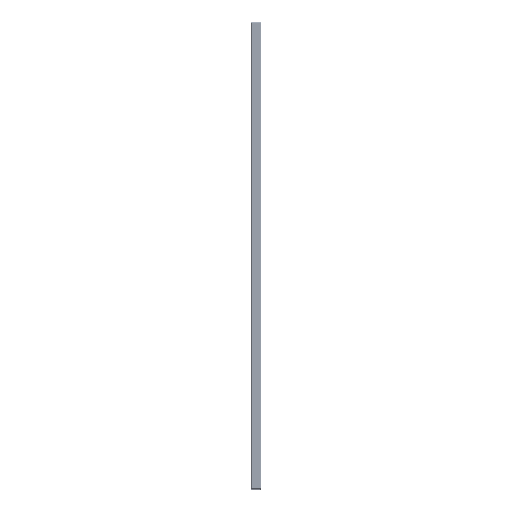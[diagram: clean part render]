
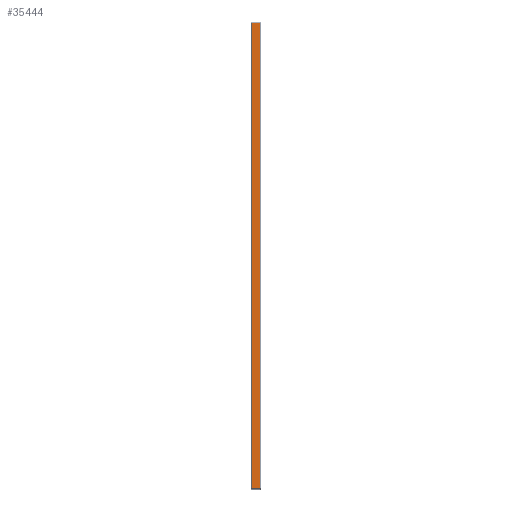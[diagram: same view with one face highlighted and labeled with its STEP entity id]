
A CAD part, top view. The second image highlights one B-rep face of the part: STEP entity #35444.
In plain terms, the highlighted planar face has unit normal (0, 0, 1).
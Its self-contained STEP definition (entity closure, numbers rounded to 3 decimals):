
#10834=FACE_OUTER_BOUND($,#15357,.T.);
#15357=EDGE_LOOP($,(#29983,#29984,#29985,#29986));
#20772=LINE($,#57185,#20812);
#20780=LINE($,#59002,#20820);
#20785=LINE($,#59012,#20825);
#20803=LINE($,#60848,#20843);
#20812=VECTOR($,#44490,13.);
#20820=VECTOR($,#46304,746.);
#20825=VECTOR($,#46311,13.);
#20843=VECTOR($,#48147,746.);
#20851=VERTEX_POINT($,#57182);
#20852=VERTEX_POINT($,#57184);
#21758=VERTEX_POINT($,#59000);
#21762=VERTEX_POINT($,#59010);
#24480=EDGE_CURVE($,#20851,#20852,#20772,.T.);
#25389=EDGE_CURVE($,#21758,#20851,#20780,.T.);
#25394=EDGE_CURVE($,#21762,#21758,#20785,.T.);
#26313=EDGE_CURVE($,#20852,#21762,#20803,.T.);
#29983=ORIENTED_EDGE($,*,*,#25389,.F.);
#29984=ORIENTED_EDGE($,*,*,#25394,.F.);
#29985=ORIENTED_EDGE($,*,*,#26313,.F.);
#29986=ORIENTED_EDGE($,*,*,#24480,.F.);
#35421=PLANE($,#39970);
#35444=ADVANCED_FACE($,(#10834),#35421,.T.);
#39970=AXIS2_PLACEMENT_3D($,#60853,#48152,#48153);
#44490=DIRECTION($,(1.,0.,0.));
#46304=DIRECTION($,(0.,1.,0.));
#46311=DIRECTION($,(-1.,0.,0.));
#48147=DIRECTION($,(0.,-1.,0.));
#48152=DIRECTION('center_axis',(0.,0.,1.));
#48153=DIRECTION('ref_axis',(0.,-1.,0.));
#57182=CARTESIAN_POINT('',(1.,748.,750.));
#57184=CARTESIAN_POINT('',(14.,748.,750.));
#57185=CARTESIAN_POINT($,(0.,748.,750.));
#59000=CARTESIAN_POINT('',(1.,2.,750.));
#59002=CARTESIAN_POINT($,(1.,562.5,750.));
#59010=CARTESIAN_POINT('',(14.,2.,750.));
#59012=CARTESIAN_POINT($,(0.,2.,750.));
#60848=CARTESIAN_POINT($,(14.,562.5,750.));
#60853=CARTESIAN_POINT('Origin',(0.,750.,750.));
